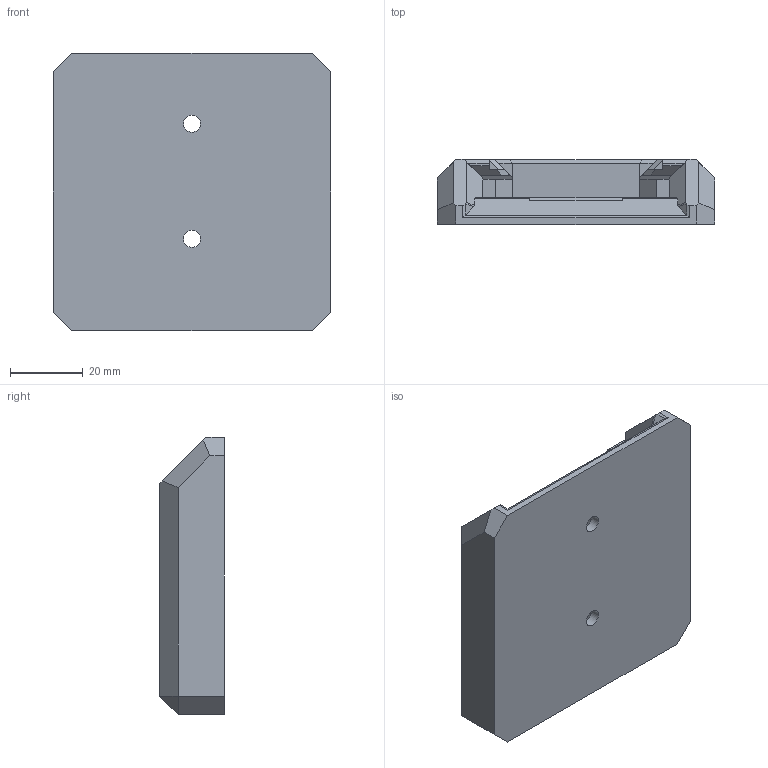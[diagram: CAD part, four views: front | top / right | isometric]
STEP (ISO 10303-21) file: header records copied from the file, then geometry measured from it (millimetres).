
FILE_DESCRIPTION(/* description */ ('STEP AP242','CAx-IF Rec.Pracs.---Representation and Presentation of Product Manufacturing Information (PMI)---4.0---2014-10-13','CAx-IF Rec.Pracs.---3D Tessellated Geometry---0.4---2014-09-14','2;1'),/* implementation_level */ '2;1');
FILE_NAME(/* name */ '648024bbf6afe1159ddce49c',/* time_stamp */ '2023-06-07T06:33:32Z',/* author */ (''),/* organization */ (''),/* preprocessor_version */ 'ST-DEVELOPER v19.4',/* originating_system */ ' ',/* authorisation */ ' ');
FILE_SCHEMA (('AP242_MANAGED_MODEL_BASED_3D_ENGINEERING_MIM_LF { 1 0 10303 442 1 1 4 }'));
Length unit declared in the file: metre
Products named in the file (1): Dewalt Battery Holder
Bounding box: 76.2 x 17.78 x 76.2 mm (x, y, z)
Volume: 65509.5 mm3; surface area: 18106.7 mm2
Topology: 1 solids, 1 shells, 86 faces, 238 edges, 154 vertices
Faces by surface type: plane 81, cylinder 3, cone 2
Full cylindrical faces by diameter (mm): 4.699 x2
Entity records: 2688 total; most frequent: CARTESIAN_POINT 475, ORIENTED_EDGE 468, DIRECTION 416, EDGE_CURVE 234, LINE 226, VECTOR 226, VERTEX_POINT 154, AXIS2_PLACEMENT_3D 95
